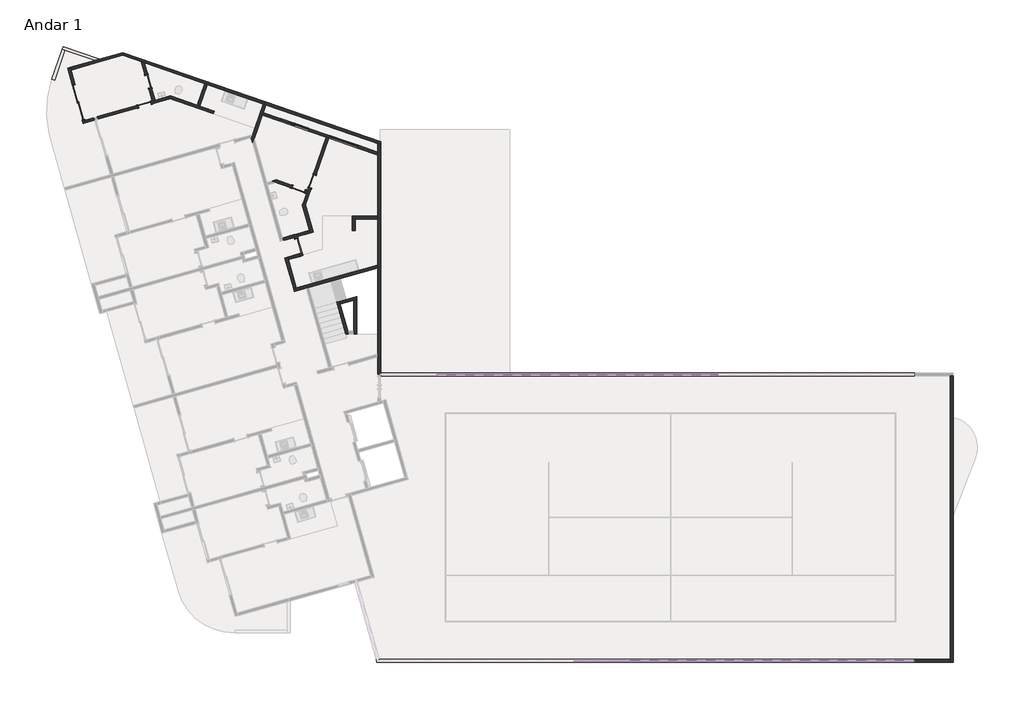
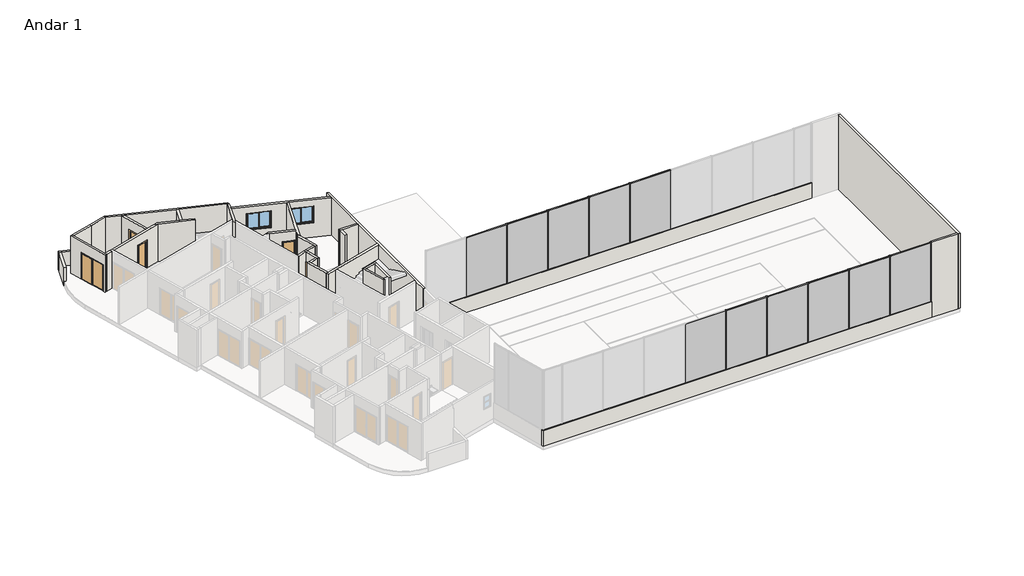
# One storey, part 3 of 4: 33 walls, 20 members, 11 plates, 6 doors, 2 windows.
"""IFC4 building model written with IfcOpenShell, lengths in millimetres."""

from ifc_helpers import new_model, si_unit, frame, origin, place, context, project, spatial, polyline, outline, extrude, faceted_brep, transform, mapped, element, save
from components import p2_80cm_9d4be4ef, p3_70cm_ef4d15e3, p3_70cm_0a698c7c, p4_correr_200cm_eaaa0877, montante_retangular_montante_circular_5ff1fdcf, montante_retangular_montante_circular_86a469dc, montante_retangular_montante_circular_5da571e1, painel_do_sistema_4e286993, jx_160cm_e9e36a0c

model = new_model("IFC4")

# Units and contexts
model_context = context("Model", 3, world=origin())
ifc_project = project(units=[si_unit("LENGTHUNIT", "METRE", prefix="MILLI")], contexts=[model_context])

# Site, building, storey
site = spatial("IfcSite", under=ifc_project)
building = spatial("IfcBuilding", under=site)
storey = spatial("IfcBuildingStorey", under=building, Name="Andar 1", Elevation=53650.0)

# Doors
placement = place(None, origin())
p2_80cm_shape = p2_80cm_9d4be4ef(model_context)
element("IfcDoor", 1, ObjectType="M_Folha única1 : P2 - 80CM", at=placement, inside=storey, context=model_context, shape_type="MappedRepresentation", body=[
    mapped(p2_80cm_shape, transform((-79349.4097406, 25479.1041247, 53650.0), x_axis=(-0.27176796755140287, 0.962362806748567, 0.0), y_axis=(-0.962362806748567, -0.27176796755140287, 0.0), z_axis=(0.0, 0.0, 1.0))),
])
p3_70cm_shape = p3_70cm_ef4d15e3(model_context)
element("IfcDoor", 2, ObjectType="M_Folha única1 : P3 - 70CM", at=placement, inside=storey, context=model_context, shape_type="MappedRepresentation", body=[
    mapped(p3_70cm_shape, transform((-87513.806232, 32980.5300491, 53650.0), x_axis=(0.9623628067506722, 0.2717679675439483, 0.0), y_axis=(-0.2717679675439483, 0.9623628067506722, 0.0), z_axis=(0.0, 0.0, 1.0))),
])
p3_70cm_2_shape = p3_70cm_0a698c7c(model_context)
element("IfcDoor", 3, ObjectType="M_Folha única1 : P3 - 70CM", at=placement, inside=storey, context=model_context, shape_type="MappedRepresentation", body=[
    mapped(p3_70cm_2_shape, transform((-87314.304722, 34205.8663896, 53650.0), x_axis=(-0.2717679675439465, 0.9623628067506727, 0.0), y_axis=(-0.9623628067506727, -0.2717679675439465, 0.0), z_axis=(0.0, 0.0, 1.0))),
])
element("IfcDoor", 4, ObjectType="M_Folha única1 : P3 - 70CM", at=placement, inside=storey, context=model_context, shape_type="MappedRepresentation", body=[
    mapped(p3_70cm_2_shape, transform((-79346.1223746, 28509.6973665, 53650.0), x_axis=(0.9449109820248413, -0.32732741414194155, 0.0), y_axis=(0.32732741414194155, 0.9449109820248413, 0.0), z_axis=(0.0, 0.0, 1.0))),
])
element("IfcDoor", 5, ObjectType="M_Folha única1 : P3 - 70CM", at=placement, inside=storey, context=model_context, shape_type="MappedRepresentation", body=[
    mapped(p3_70cm_2_shape, transform((-78626.5662556, 28921.8732895, 53650.0), x_axis=(-0.32732741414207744, -0.9449109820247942, 0.0), y_axis=(0.9449109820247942, -0.32732741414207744, 0.0), z_axis=(0.0, 0.0, 1.0))),
])
p4_correr_200cm_shape = p4_correr_200cm_eaaa0877(model_context)
element("IfcDoor", 6, ObjectType="Porta de correr dupla envidraçada sem revestimento : P4 - CORRER - 200CM", at=placement, inside=storey, context=model_context, shape_type="MappedRepresentation", body=[
    mapped(p4_correr_200cm_shape, transform((-91005.8131296, 33111.4415743, 53650.0), x_axis=(0.2717679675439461, -0.9623628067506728, 0.0), y_axis=(0.9623628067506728, 0.2717679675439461, 0.0), z_axis=(0.0, 0.0, 1.0))),
])

# Members
montante_retangular_montante_circular_shape = montante_retangular_montante_circular_5ff1fdcf(model_context)
element("IfcMember", 7, ObjectType="Montante retangular : Montante Circular", at=placement, inside=storey, context=model_context, shape_type="MappedRepresentation", body=[
    mapped(montante_retangular_montante_circular_shape, transform((-69057.8282186, 18677.5140353, 59450.0), x_axis=(0.0, 0.0, 1.0), y_axis=(0.0, -1.0, 0.0), z_axis=(1.0, 0.0, 0.0))),
])
element("IfcMember", 8, ObjectType="Montante retangular : Montante Circular", at=placement, inside=storey, context=model_context, shape_type="MappedRepresentation", body=[
    mapped(montante_retangular_montante_circular_shape, transform((-66057.8282186, 18677.5140353, 59450.0), x_axis=(0.0, 0.0, 1.0), y_axis=(0.0, -1.0, 0.0), z_axis=(1.0, 0.0, 0.0))),
])
element("IfcMember", 9, ObjectType="Montante retangular : Montante Circular", at=placement, inside=storey, context=model_context, shape_type="MappedRepresentation", body=[
    mapped(montante_retangular_montante_circular_shape, transform((-63057.8282186, 18677.5140353, 59450.0), x_axis=(0.0, 0.0, 1.0), y_axis=(0.0, -1.0, 0.0), z_axis=(1.0, 0.0, 0.0))),
])
element("IfcMember", 10, ObjectType="Montante retangular : Montante Circular", at=placement, inside=storey, context=model_context, shape_type="MappedRepresentation", body=[
    mapped(montante_retangular_montante_circular_shape, transform((-60057.8282186, 18677.5140353, 59450.0), x_axis=(0.0, 0.0, 1.0), y_axis=(0.0, -1.0, 0.0), z_axis=(1.0, 0.0, 0.0))),
])
element("IfcMember", 11, ObjectType="Montante retangular : Montante Circular", at=placement, inside=storey, context=model_context, shape_type="MappedRepresentation", body=[
    mapped(montante_retangular_montante_circular_shape, transform((-57057.8282186, 18677.5140353, 59450.0), x_axis=(0.0, 0.0, 1.0), y_axis=(0.0, -1.0, 0.0), z_axis=(1.0, 0.0, 0.0))),
])
element("IfcMember", 12, ObjectType="Montante retangular : Montante Circular", at=placement, inside=storey, context=model_context, shape_type="MappedRepresentation", body=[
    mapped(montante_retangular_montante_circular_shape, transform((-49731.6124052, 3486.0495751, 59450.0), x_axis=(0.0, 0.0, 1.0), y_axis=(0.0, 1.0, 0.0), z_axis=(-1.0, 0.0, 0.0))),
])
element("IfcMember", 13, ObjectType="Montante retangular : Montante Circular", at=placement, inside=storey, context=model_context, shape_type="MappedRepresentation", body=[
    mapped(montante_retangular_montante_circular_shape, transform((-52731.6124052, 3486.0495751, 59450.0), x_axis=(0.0, 0.0, 1.0), y_axis=(0.0, 1.0, 0.0), z_axis=(-1.0, 0.0, 0.0))),
])
element("IfcMember", 14, ObjectType="Montante retangular : Montante Circular", at=placement, inside=storey, context=model_context, shape_type="MappedRepresentation", body=[
    mapped(montante_retangular_montante_circular_shape, transform((-55731.6124052, 3486.0495751, 59450.0), x_axis=(0.0, 0.0, 1.0), y_axis=(0.0, 1.0, 0.0), z_axis=(-1.0, 0.0, 0.0))),
])
element("IfcMember", 15, ObjectType="Montante retangular : Montante Circular", at=placement, inside=storey, context=model_context, shape_type="MappedRepresentation", body=[
    mapped(montante_retangular_montante_circular_shape, transform((-58731.6124052, 3486.0495751, 59450.0), x_axis=(0.0, 0.0, 1.0), y_axis=(0.0, 1.0, 0.0), z_axis=(-1.0, 0.0, 0.0))),
])
element("IfcMember", 16, ObjectType="Montante retangular : Montante Circular", at=placement, inside=storey, context=model_context, shape_type="MappedRepresentation", body=[
    mapped(montante_retangular_montante_circular_shape, transform((-61731.6124052, 3486.0495751, 59450.0), x_axis=(0.0, 0.0, 1.0), y_axis=(0.0, 1.0, 0.0), z_axis=(-1.0, 0.0, 0.0))),
])
montante_retangular_montante_circular_2_shape = montante_retangular_montante_circular_86a469dc(model_context)
element("IfcMember", 17, ObjectType="Montante retangular : Montante Circular", at=placement, inside=storey, context=model_context, shape_type="MappedRepresentation", body=[
    mapped(montante_retangular_montante_circular_2_shape, transform((-69027.8282186, 18677.5140353, 54850.0), x_axis=(1.0, 0.0, 0.0), y_axis=(0.0, -1.0, 0.0), z_axis=(0.0, 0.0, -1.0))),
])
element("IfcMember", 18, ObjectType="Montante retangular : Montante Circular", at=placement, inside=storey, context=model_context, shape_type="MappedRepresentation", body=[
    mapped(montante_retangular_montante_circular_2_shape, transform((-66027.8282186, 18677.5140353, 54850.0), x_axis=(1.0, 0.0, 0.0), y_axis=(0.0, -1.0, 0.0), z_axis=(0.0, 0.0, -1.0))),
])
element("IfcMember", 19, ObjectType="Montante retangular : Montante Circular", at=placement, inside=storey, context=model_context, shape_type="MappedRepresentation", body=[
    mapped(montante_retangular_montante_circular_2_shape, transform((-63027.8282186, 18677.5140353, 54850.0), x_axis=(1.0, 0.0, 0.0), y_axis=(0.0, -1.0, 0.0), z_axis=(0.0, 0.0, -1.0))),
])
element("IfcMember", 20, ObjectType="Montante retangular : Montante Circular", at=placement, inside=storey, context=model_context, shape_type="MappedRepresentation", body=[
    mapped(montante_retangular_montante_circular_2_shape, transform((-60027.8282186, 18677.5140353, 54850.0), x_axis=(1.0, 0.0, 0.0), y_axis=(0.0, -1.0, 0.0), z_axis=(0.0, 0.0, -1.0))),
])
element("IfcMember", 21, ObjectType="Montante retangular : Montante Circular", at=placement, inside=storey, context=model_context, shape_type="MappedRepresentation", body=[
    mapped(montante_retangular_montante_circular_2_shape, transform((-49761.6124052, 3486.0495751, 54850.0), x_axis=(-1.0, 0.0, 0.0), y_axis=(0.0, 1.0, 0.0), z_axis=(0.0, 0.0, -1.0))),
])
element("IfcMember", 22, ObjectType="Montante retangular : Montante Circular", at=placement, inside=storey, context=model_context, shape_type="MappedRepresentation", body=[
    mapped(montante_retangular_montante_circular_2_shape, transform((-52761.6124052, 3486.0495751, 54850.0), x_axis=(-1.0, 0.0, 0.0), y_axis=(0.0, 1.0, 0.0), z_axis=(0.0, 0.0, -1.0))),
])
element("IfcMember", 23, ObjectType="Montante retangular : Montante Circular", at=placement, inside=storey, context=model_context, shape_type="MappedRepresentation", body=[
    mapped(montante_retangular_montante_circular_2_shape, transform((-55761.6124052, 3486.0495751, 54850.0), x_axis=(-1.0, 0.0, 0.0), y_axis=(0.0, 1.0, 0.0), z_axis=(0.0, 0.0, -1.0))),
])
element("IfcMember", 24, ObjectType="Montante retangular : Montante Circular", at=placement, inside=storey, context=model_context, shape_type="MappedRepresentation", body=[
    mapped(montante_retangular_montante_circular_2_shape, transform((-58761.6124052, 3486.0495751, 54850.0), x_axis=(-1.0, 0.0, 0.0), y_axis=(0.0, 1.0, 0.0), z_axis=(0.0, 0.0, -1.0))),
])
element("IfcMember", 25, ObjectType="Montante retangular : Montante Circular", at=placement, inside=storey, context=model_context, shape_type="MappedRepresentation", body=[
    mapped(montante_retangular_montante_circular_2_shape, transform((-61761.6124052, 3486.0495751, 54850.0), x_axis=(-1.0, 0.0, 0.0), y_axis=(0.0, 1.0, 0.0), z_axis=(0.0, 0.0, -1.0))),
])
montante_retangular_montante_circular_3_shape = montante_retangular_montante_circular_5da571e1(model_context)
element("IfcMember", 26, ObjectType="Montante retangular : Montante Circular", at=placement, inside=storey, context=model_context, shape_type="MappedRepresentation", body=[
    mapped(montante_retangular_montante_circular_3_shape, transform((-46731.6124049, 3486.0495751, 59450.0), x_axis=(1.0, 0.0, 0.0), y_axis=(0.0, 1.0, 0.0), z_axis=(0.0, 0.0, 1.0))),
])

# Plates
painel_do_sistema_shape = painel_do_sistema_4e286993(model_context)
element("IfcPlate", 27, ObjectType="Painel do sistema : Gradil Alambrado", at=placement, inside=storey, context=model_context, shape_type="MappedRepresentation", body=[
    mapped(painel_do_sistema_shape, transform((-70527.8282186, 18677.5140353, 54850.0), x_axis=(1.0, 0.0, 0.0), y_axis=(0.0, 1.0, 0.0), z_axis=(0.0, 0.0, 1.0))),
])
element("IfcPlate", 28, ObjectType="Painel do sistema : Gradil Alambrado", at=placement, inside=storey, context=model_context, shape_type="MappedRepresentation", body=[
    mapped(painel_do_sistema_shape, transform((-67527.8282186, 18677.5140353, 54850.0), x_axis=(1.0, 0.0, 0.0), y_axis=(0.0, 1.0, 0.0), z_axis=(0.0, 0.0, 1.0))),
])
element("IfcPlate", 29, ObjectType="Painel do sistema : Gradil Alambrado", at=placement, inside=storey, context=model_context, shape_type="MappedRepresentation", body=[
    mapped(painel_do_sistema_shape, transform((-64527.8282186, 18677.5140353, 54850.0), x_axis=(1.0, 0.0, 0.0), y_axis=(0.0, 1.0, 0.0), z_axis=(0.0, 0.0, 1.0))),
])
element("IfcPlate", 30, ObjectType="Painel do sistema : Gradil Alambrado", at=placement, inside=storey, context=model_context, shape_type="MappedRepresentation", body=[
    mapped(painel_do_sistema_shape, transform((-61527.8282186, 18677.5140353, 54850.0), x_axis=(1.0, 0.0, 0.0), y_axis=(0.0, 1.0, 0.0), z_axis=(0.0, 0.0, 1.0))),
])
element("IfcPlate", 31, ObjectType="Painel do sistema : Gradil Alambrado", at=placement, inside=storey, context=model_context, shape_type="MappedRepresentation", body=[
    mapped(painel_do_sistema_shape, transform((-58527.8282186, 18677.5140353, 54850.0), x_axis=(1.0, 0.0, 0.0), y_axis=(0.0, 1.0, 0.0), z_axis=(0.0, 0.0, 1.0))),
])
element("IfcPlate", 32, ObjectType="Painel do sistema : Gradil Alambrado", at=placement, inside=storey, context=model_context, shape_type="MappedRepresentation", body=[
    mapped(painel_do_sistema_shape, transform((-48261.612405, 3486.0495751, 54850.0), x_axis=(-1.0, 0.0, 0.0), y_axis=(0.0, -1.0, 0.0), z_axis=(0.0, 0.0, 1.0))),
])
element("IfcPlate", 33, ObjectType="Painel do sistema : Gradil Alambrado", at=placement, inside=storey, context=model_context, shape_type="MappedRepresentation", body=[
    mapped(painel_do_sistema_shape, transform((-51261.6124052, 3486.0495751, 54850.0), x_axis=(-1.0, 0.0, 0.0), y_axis=(0.0, -1.0, 0.0), z_axis=(0.0, 0.0, 1.0))),
])
element("IfcPlate", 34, ObjectType="Painel do sistema : Gradil Alambrado", at=placement, inside=storey, context=model_context, shape_type="MappedRepresentation", body=[
    mapped(painel_do_sistema_shape, transform((-54261.6124052, 3486.0495751, 54850.0), x_axis=(-1.0, 0.0, 0.0), y_axis=(0.0, -1.0, 0.0), z_axis=(0.0, 0.0, 1.0))),
])
element("IfcPlate", 35, ObjectType="Painel do sistema : Gradil Alambrado", at=placement, inside=storey, context=model_context, shape_type="MappedRepresentation", body=[
    mapped(painel_do_sistema_shape, transform((-57261.6124052, 3486.0495751, 54850.0), x_axis=(-1.0, 0.0, 0.0), y_axis=(0.0, -1.0, 0.0), z_axis=(0.0, 0.0, 1.0))),
])
element("IfcPlate", 36, ObjectType="Painel do sistema : Gradil Alambrado", at=placement, inside=storey, context=model_context, shape_type="MappedRepresentation", body=[
    mapped(painel_do_sistema_shape, transform((-60261.6124052, 3486.0495751, 54850.0), x_axis=(-1.0, 0.0, 0.0), y_axis=(0.0, -1.0, 0.0), z_axis=(0.0, 0.0, 1.0))),
])
element("IfcPlate", 37, ObjectType="Painel do sistema : Gradil Alambrado", at=placement, inside=storey, context=model_context, shape_type="MappedRepresentation", body=[
    mapped(painel_do_sistema_shape, transform((-63261.6124052, 3486.0495751, 54850.0), x_axis=(-1.0, 0.0, 0.0), y_axis=(0.0, -1.0, 0.0), z_axis=(0.0, 0.0, 1.0))),
])

# Walls
element("IfcWall", 38, ObjectType="Básica .15 - Externa", at=placement, inside=storey, context=model_context, shape_type="Brep", body=[
    faceted_brep([(-88662.6343714, 35591.588263, 53650.0), (-87688.240739, 35254.0477389, 53650.0), (-87515.4733556, 35194.1992432, 53650.0), (-84326.6881589, 34089.5694606, 53650.0), (-84184.9515116, 34040.4703485, 53650.0), (-81226.8582774, 33015.7547641, 53650.0), (-81156.3583355, 32991.3328194, 53650.0), (-81156.3583355, 32991.3328194, 54950.0), (-81085.1216301, 32966.655652, 54950.0), (-81085.1216301, 32966.655652, 56250.0), (-81156.3583355, 32991.3328194, 56250.0), (-81156.3583355, 32991.3328194, 56550.0), (-81226.8582774, 33015.7547641, 56550.0), (-84184.9515116, 34040.4703485, 56550.0), (-84326.6881589, 34089.5694606, 56550.0), (-87515.4733556, 35194.1992432, 56550.0), (-87688.240739, 35254.0477389, 56550.0), (-88662.6343714, 35591.588263, 56550.0), (-88658.0562773, 35748.7474739, 53650.0), (-88658.0562773, 35748.7474739, 56550.0), (-81107.2592234, 33133.0694667, 56550.0), (-81107.2592234, 33133.0694667, 56250.0), (-81036.022518, 33108.3922993, 56250.0), (-81036.022518, 33108.3922993, 54950.0), (-81107.2592234, 33133.0694667, 54950.0), (-81107.2592234, 33133.0694667, 53650.0)], [[[0, 1, 2, 3, 4, 5, 6, 7, 8, 9, 10, 11, 12, 13, 14, 15, 16, 17]], [[18, 19, 20, 21, 22, 23, 24, 25]], [[6, 5, 4, 3, 2, 1, 0, 18, 25]], [[17, 16, 15, 14, 13, 12, 11, 20, 19]], [[0, 17, 19, 18]], [[7, 6, 25, 24]], [[23, 8, 7, 24]], [[11, 10, 21, 20]], [[21, 10, 9, 22]], [[9, 8, 23, 22]]]),
])
element("IfcWall", 39, ObjectType="Básica .15 -  Interna", at=placement, inside=storey, context=model_context, shape_type="Brep", body=[
    faceted_brep([(-81789.2550074, 30934.0017027, 53650.0), (-81703.3880158, 31181.8778654, 53650.0), (-81272.8781344, 32424.6503839, 53650.0), (-81223.7790223, 32566.3870312, 53650.0), (-81085.1216301, 32966.655652, 53650.0), (-81085.1216301, 32966.655652, 54950.0), (-81085.1216301, 32966.655652, 56250.0), (-81085.1216301, 32966.655652, 56550.0), (-81223.7790223, 32566.3870312, 56550.0), (-81272.8781344, 32424.6503839, 56550.0), (-81703.3880158, 31181.8778654, 56550.0), (-81789.2550074, 30934.0017027, 56550.0), (-81860.5472267, 31186.4559595, 53650.0), (-81860.5472267, 31186.4559595, 56550.0), (-81845.4155775, 31230.1371819, 56550.0), (-81785.5670817, 31402.9045654, 56550.0), (-81226.8582774, 33015.7547641, 56550.0), (-81226.8582774, 33015.7547641, 53650.0), (-81785.5670817, 31402.9045654, 53650.0), (-81845.4155775, 31230.1371819, 53650.0), (-81156.3583355, 32991.3328194, 53650.0), (-81156.3583355, 32991.3328194, 56550.0)], [[[0, 1, 2, 3, 4, 5, 6, 7, 8, 9, 10, 11]], [[12, 13, 14, 15, 16, 17, 18, 19]], [[4, 3, 2, 1, 0, 12, 19, 18, 17, 20]], [[11, 10, 9, 8, 7, 21, 16, 15, 14, 13]], [[0, 11, 13, 12]], [[4, 20, 17, 16, 21, 7, 6, 5]]]),
])
element("IfcWall", 40, ObjectType="Básica .15 -  Interna", at=placement, inside=storey, context=model_context, shape_type="Brep", body=[
    faceted_brep([(-91449.9950574, 34960.3135045, 56550.0), (-91409.2298622, 34815.9590835, 56550.0), (-90661.8679515, 32169.4613651, 56550.0), (-90621.1027564, 32025.1069441, 56550.0), (-90621.1027564, 32025.1069441, 53650.0), (-90661.8679515, 32169.4613651, 53650.0), (-90661.8679515, 32169.4613651, 55750.0), (-91205.4038866, 34094.1869786, 55750.0), (-91205.4038866, 34094.1869786, 53650.0), (-91409.2298622, 34815.9590835, 53650.0), (-91449.9950574, 34960.3135045, 53650.0), (-90765.4571774, 31984.341749, 56550.0), (-91594.3494784, 34919.5483093, 56550.0), (-91594.3494784, 34919.5483093, 53650.0), (-91349.7583076, 34053.4217835, 53650.0), (-91349.7583076, 34053.4217835, 55750.0), (-90806.2223725, 32128.69617, 55750.0), (-90806.2223725, 32128.69617, 53650.0), (-90765.4571774, 31984.341749, 53650.0)], [[[0, 1, 2, 3, 4, 5, 6, 7, 8, 9, 10]], [[11, 12, 13, 14, 15, 16, 17, 18]], [[4, 18, 17, 5]], [[13, 10, 9, 8, 14]], [[3, 2, 1, 0, 12, 11]], [[4, 3, 11, 18]], [[16, 6, 5, 17]], [[6, 16, 15, 7]], [[7, 15, 14, 8]], [[0, 10, 13, 12]]]),
])
element("IfcWall", 41, ObjectType="Básica .15 - Externa", at=placement, inside=storey, context=model_context, shape_type="Brep", body=[
    faceted_brep([(-91871.4376954, 35923.0920443, 53350.0), (-91729.7010481, 35873.9929322, 53350.0), (-90151.0501028, 35327.1311202, 53350.0), (-90151.0501028, 35327.1311202, 54750.0), (-91729.7010481, 35873.9929322, 54750.0), (-91871.4376954, 35923.0920443, 54750.0), (-91822.3385833, 36064.8286916, 53350.0), (-91822.3385833, 36064.8286916, 54750.0), (-89898.595846, 35398.4233395, 54750.0), (-89898.595846, 35398.4233395, 53350.0)], [[[0, 1, 2, 3, 4, 5]], [[6, 7, 8, 9]], [[2, 1, 0, 6, 9]], [[5, 4, 3, 8, 7]], [[0, 5, 7, 6]], [[3, 2, 9, 8]]]),
])
element("IfcWall", 42, ObjectType="Básica .15 - Externa", at=placement, inside=storey, context=model_context, shape_type="SweptSolid", body=[
    extrude(outline(polyline([(-91729.7010481, 35873.9929322), (-92280.2794148, 34284.6132387), (-92422.0160621, 34333.7123509), (-91871.4376954, 35923.0920443), (-91729.7010481, 35873.9929322)])), frame((0.0, 0.0, 53350.0), z_axis=(0.0, 0.0, 1.0), x_axis=(1.0, 0.0, 0.0)), (0.0, 0.0, 1.0), 1400.0),
])
element("IfcWall", 43, ObjectType="Básica .15 -  Interna", at=placement, inside=storey, context=model_context, shape_type="Brep", body=[
    faceted_brep([(-79570.9048554, 23078.5590693, 53650.0), (-78948.2127609, 23254.4051886, 53650.0), (-78803.8582924, 23295.1703972, 53650.0), (-75147.8282189, 24327.6207947, 53650.0), (-75147.8282189, 24327.6207947, 56550.0), (-78803.8582924, 23295.1703972, 56550.0), (-78948.2127609, 23254.4051886, 56550.0), (-79570.9048554, 23078.5590693, 56550.0), (-79611.6700506, 23222.9134903, 53650.0), (-79611.6700506, 23222.9134903, 56550.0), (-79467.3156296, 23263.6786855, 56550.0), (-75147.8282189, 24483.4871675, 56550.0), (-75147.8282189, 24483.4871675, 53650.0), (-79467.3156296, 23263.6786855, 53650.0)], [[[0, 1, 2, 3, 4, 5, 6, 7]], [[8, 9, 10, 11, 12, 13]], [[3, 2, 1, 0, 8, 13, 12]], [[7, 6, 5, 4, 11, 10, 9]], [[0, 7, 9, 8]], [[4, 3, 12, 11]]]),
])
element("IfcWall", 44, ObjectType="Básica .15 - Externa", at=placement, inside=storey, context=model_context, shape_type="Brep", body=[
    faceted_brep([(-75147.8282189, 30909.9128092, 56550.0), (-75147.8282189, 30909.9128092, 53650.0), (-75147.8282189, 30461.6117638, 53650.0), (-75147.8282189, 30302.8666514, 53650.0), (-75147.8282189, 27060.8243598, 53650.0), (-75147.8282189, 26910.8243598, 53650.0), (-75147.8282189, 24483.4871675, 53650.0), (-75147.8282189, 24327.6207947, 53650.0), (-75147.8282189, 19757.3329862, 53650.0), (-75147.8282189, 19601.4666134, 53650.0), (-75147.8282189, 18602.5140353, 53650.0), (-75147.8282189, 18602.5140353, 54850.0), (-75147.8282189, 18677.5140353, 54850.0), (-75147.8282189, 18677.5140353, 56550.0), (-75147.8282189, 19601.4666134, 56550.0), (-75147.8282189, 19757.3329862, 56550.0), (-75147.8282189, 24327.6207947, 56550.0), (-75147.8282189, 24483.4871675, 56550.0), (-75147.8282189, 26910.8243598, 56550.0), (-75147.8282189, 27060.8243598, 56550.0), (-75147.8282189, 30302.8666514, 56550.0), (-75147.8282189, 30461.6117638, 56550.0), (-74997.8282189, 30857.9511821, 53650.0), (-74997.8282189, 30857.9511821, 54950.0), (-74997.8282189, 30857.9511821, 56250.0), (-74997.8282189, 30857.9511821, 56550.0), (-74997.8282189, 18677.5140353, 56550.0), (-74997.8282189, 18677.5140353, 54850.0), (-74997.8282189, 18602.5140353, 54850.0), (-74997.8282189, 18602.5140353, 53650.0), (-74997.8282189, 18752.5140353, 53650.0)], [[[0, 1, 2, 3, 4, 5, 6, 7, 8, 9, 10, 11, 12, 13, 14, 15, 16, 17, 18, 19, 20, 21]], [[22, 23, 24, 25, 26, 27, 28, 29, 30]], [[10, 9, 8, 7, 6, 5, 4, 3, 2, 1, 22, 30, 29]], [[0, 21, 20, 19, 18, 17, 16, 15, 14, 13, 26, 25]], [[0, 25, 24, 23, 22, 1]], [[13, 12, 27, 26]], [[27, 12, 11, 28]], [[11, 10, 29, 28]]]),
])
element("IfcWall", 45, ObjectType="Básica .15 -  Interna", at=placement, inside=storey, context=model_context, shape_type="Brep", body=[
    faceted_brep([(-80073.6755954, 24858.9302618, 53650.0), (-79611.6700506, 23222.9134903, 53650.0), (-79611.6700506, 23222.9134903, 56550.0), (-80073.6755954, 24858.9302618, 56550.0), (-79929.3211744, 24899.695457, 53650.0), (-79929.3211744, 24899.695457, 56550.0), (-79888.5559793, 24755.3410359, 56550.0), (-79467.3156296, 23263.6786855, 56550.0), (-79467.3156296, 23263.6786855, 53650.0), (-79888.5559793, 24755.3410359, 53650.0)], [[[0, 1, 2, 3]], [[4, 5, 6, 7, 8, 9]], [[1, 0, 4, 9, 8]], [[3, 2, 7, 6, 5]], [[0, 3, 5, 4]], [[2, 1, 8, 7]]]),
])
element("IfcWall", 46, ObjectType="Básica .15 -  Interna", at=placement, inside=storey, context=model_context, shape_type="Brep", body=[
    faceted_brep([(-79888.5559793, 24755.3410359, 53650.0), (-79272.1145689, 24929.4219834, 53650.0), (-79272.1145689, 24929.4219834, 56550.0), (-79888.5559793, 24755.3410359, 56550.0), (-79929.3211744, 24899.695457, 53650.0), (-79929.3211744, 24899.695457, 56550.0), (-79312.8797641, 25073.7764044, 56550.0), (-79312.8797641, 25073.7764044, 55750.0), (-79312.8797641, 25073.7764044, 53650.0)], [[[0, 1, 2, 3]], [[4, 5, 6, 7, 8]], [[1, 0, 4, 8]], [[3, 2, 6, 5]], [[0, 3, 5, 4]], [[2, 1, 8, 7, 6]]]),
])
element("IfcWall", 47, ObjectType="Básica .15 -  Interna", at=placement, inside=storey, context=model_context, shape_type="Brep", body=[
    faceted_brep([(-79598.23613, 26084.2573515, 53650.0), (-79557.4709349, 25939.9029305, 53650.0), (-79530.2941381, 25843.6666498, 53650.0), (-79530.2941381, 25843.6666498, 55750.0), (-79312.8797641, 25073.7764044, 55750.0), (-79312.8797641, 25073.7764044, 53650.0), (-79272.1145689, 24929.4219834, 53650.0), (-79272.1145689, 24929.4219834, 56550.0), (-79312.8797641, 25073.7764044, 56550.0), (-79557.4709349, 25939.9029305, 56550.0), (-79598.23613, 26084.2573515, 56550.0), (-79385.9397171, 25884.4318449, 55750.0), (-79385.9397171, 25884.4318449, 53650.0), (-79413.1165138, 25980.6681256, 53650.0), (-79453.881709, 26125.0225466, 53650.0), (-79453.881709, 26125.0225466, 56550.0), (-79413.1165138, 25980.6681256, 56550.0), (-79127.7601479, 24970.1871785, 56550.0), (-79127.7601479, 24970.1871785, 53650.0), (-79168.5253431, 25114.5415995, 53650.0), (-79168.5253431, 25114.5415995, 55750.0)], [[[0, 1, 2, 3, 4, 5, 6, 7, 8, 9, 10]], [[11, 12, 13, 14, 15, 16, 17, 18, 19, 20]], [[19, 18, 6, 5]], [[14, 13, 12, 2, 1, 0]], [[10, 9, 8, 7, 17, 16, 15]], [[7, 6, 18, 17]], [[0, 10, 15, 14]], [[3, 2, 12, 11]], [[4, 3, 11, 20]], [[5, 4, 20, 19]]]),
])
element("IfcWall", 48, ObjectType="Básica .15 - Externa", at=placement, inside=storey, context=model_context, shape_type="SweptSolid", body=[
    extrude(outline(polyline([(-89921.2674906, 35392.0209445), (-88658.0562773, 35748.7474739), (-88662.6343714, 35591.588263), (-89880.5022955, 35247.6665235), (-89921.2674906, 35392.0209445)])), frame((0.0, 0.0, 53650.0), z_axis=(0.0, 0.0, 1.0), x_axis=(1.0, 0.0, 0.0)), (0.0, 0.0, 1.0), 2900.0),
])
element("IfcWall", 49, ObjectType="Básica .15 -  Interna", at=placement, inside=storey, context=model_context, shape_type="Brep", body=[
    faceted_brep([(-90184.5077758, 32304.2662473, 53650.0), (-90661.8679515, 32169.4613651, 53650.0), (-90661.8679515, 32169.4613651, 55750.0), (-90661.8679515, 32169.4613651, 56550.0), (-90184.5077758, 32304.2662473, 56550.0), (-90143.7425806, 32159.9118263, 53650.0), (-90143.7425806, 32159.9118263, 55750.0), (-90143.7425806, 32159.9118263, 56550.0), (-90621.1027564, 32025.1069441, 56550.0), (-90621.1027564, 32025.1069441, 53650.0)], [[[0, 1, 2, 3, 4]], [[5, 6, 7, 8, 9]], [[1, 0, 5, 9]], [[4, 3, 8, 7]], [[0, 4, 7, 6, 5]], [[3, 2, 1, 9, 8]]]),
])
element("IfcWall", 50, ObjectType="Básica .15 -  Interna", at=placement, inside=storey, context=model_context, shape_type="SweptSolid", body=[
    extrude(outline(polyline([(-79557.4709349, 25939.9029305), (-80173.9123452, 25765.821983), (-80214.6775403, 25910.176404), (-79598.23613, 26084.2573515), (-79557.4709349, 25939.9029305)])), frame((0.0, 0.0, 53650.0), z_axis=(0.0, 0.0, 1.0), x_axis=(1.0, 0.0, 0.0)), (0.0, 0.0, 1.0), 2900.0),
])
element("IfcWall", 51, ObjectType="Básica .15 -  Interna", at=placement, inside=storey, context=model_context, shape_type="Brep", body=[
    faceted_brep([(-81272.8781344, 32424.6503839, 53650.0), (-77897.5766162, 31255.4093243, 53650.0), (-77755.8399689, 31206.3102121, 53650.0), (-75147.8282189, 30302.8666514, 53650.0), (-75147.8282189, 30302.8666514, 56550.0), (-77755.8399689, 31206.3102121, 56550.0), (-77897.5766162, 31255.4093243, 56550.0), (-81272.8781344, 32424.6503839, 56550.0), (-78829.2985897, 31578.1679228, 54750.0), (-80341.1561609, 32101.8917854, 54750.0), (-80341.1561609, 32101.8917854, 56050.0), (-78829.2985897, 31578.1679228, 56050.0), (-76243.9823976, 30682.5863495, 54750.0), (-77755.8399689, 31206.3102121, 54750.0), (-77755.8399689, 31206.3102121, 56050.0), (-76243.9823976, 30682.5863495, 56050.0), (-81223.7790223, 32566.3870312, 53650.0), (-81223.7790223, 32566.3870312, 56550.0), (-75147.8282189, 30461.6117638, 56550.0), (-75147.8282189, 30461.6117638, 53650.0), (-78780.1994776, 31719.9045701, 54750.0), (-78780.1994776, 31719.9045701, 56050.0), (-80292.0570488, 32243.6284327, 56050.0), (-80292.0570488, 32243.6284327, 54750.0), (-76194.8832855, 30824.3229968, 54750.0), (-76194.8832855, 30824.3229968, 56050.0), (-77706.7408568, 31348.0468595, 56050.0), (-77706.7408568, 31348.0468595, 54750.0)], [[[0, 1, 2, 3, 4, 5, 6, 7], [8, 9, 10, 11], [12, 13, 14, 15]], [[16, 17, 18, 19], [20, 21, 22, 23], [24, 25, 26, 27]], [[3, 2, 1, 0, 16, 19]], [[7, 6, 5, 4, 18, 17]], [[0, 7, 17, 16]], [[21, 20, 8, 11]], [[22, 21, 11, 10]], [[23, 22, 10, 9]], [[20, 23, 9, 8]], [[25, 24, 12, 15]], [[26, 25, 15, 14]], [[27, 26, 14, 13]], [[24, 27, 13, 12]], [[4, 3, 19, 18]]]),
])
element("IfcWall", 52, ObjectType="Básica .15 - Externa", at=placement, inside=storey, context=model_context, shape_type="Brep", body=[
    faceted_brep([(-81156.3583355, 32991.3328194, 54950.0), (-81156.3583355, 32991.3328194, 53650.0), (-81156.3583355, 32991.3328194, 53350.0), (-81085.1216301, 32966.655652, 53350.0), (-74997.8282189, 30857.9511821, 53350.0), (-74997.8282189, 30857.9511821, 53650.0), (-74997.8282189, 30857.9511821, 54950.0), (-81085.1216301, 32966.655652, 54950.0), (-81107.2592234, 33133.0694667, 53350.0), (-81107.2592234, 33133.0694667, 53650.0), (-81107.2592234, 33133.0694667, 54950.0), (-81036.022518, 33108.3922993, 54950.0), (-74997.8282189, 31016.6962944, 54950.0), (-74997.8282189, 31016.6962944, 53350.0), (-81036.022518, 33108.3922993, 53350.0)], [[[0, 1, 2, 3, 4, 5, 6, 7]], [[8, 9, 10, 11, 12, 13, 14]], [[4, 3, 2, 8, 14, 13]], [[0, 7, 6, 12, 11, 10]], [[0, 10, 9, 8, 2, 1]], [[6, 5, 4, 13, 12]]]),
])
element("IfcWall", 53, ObjectType="Básica .15 -  Interna", at=placement, inside=storey, context=model_context, shape_type="SweptSolid", body=[
    extrude(outline(polyline([(-91449.9950574, 34960.3135045), (-89921.2674906, 35392.0209445), (-89880.5022955, 35247.6665235), (-91409.2298622, 34815.9590835), (-91449.9950574, 34960.3135045)])), frame((0.0, 0.0, 53650.0), z_axis=(0.0, 0.0, 1.0), x_axis=(1.0, 0.0, 0.0)), (0.0, 0.0, 1.0), 2900.0),
])
element("IfcWall", 54, ObjectType="Básica .15 -  Interna", at=placement, inside=storey, context=model_context, shape_type="Brep", body=[
    faceted_brep([(-83821.815623, 32644.7152387, 53650.0), (-84577.7444086, 32906.57717, 53650.0), (-84719.4810559, 32955.6762822, 53650.0), (-86137.8721095, 33447.0223292, 53650.0), (-86137.8721095, 33447.0223292, 56550.0), (-84719.4810559, 32955.6762822, 56550.0), (-84577.7444086, 32906.57717, 56550.0), (-83821.815623, 32644.7152387, 56550.0), (-83870.9147351, 32502.9785914, 53650.0), (-83870.9147351, 32502.9785914, 56550.0), (-86142.4502035, 33289.8631183, 56550.0), (-86390.3263662, 33375.7301099, 56550.0), (-86390.3263662, 33375.7301099, 53650.0), (-86142.4502035, 33289.8631183, 53650.0)], [[[0, 1, 2, 3, 4, 5, 6, 7]], [[8, 9, 10, 11, 12, 13]], [[3, 2, 1, 0, 8, 13, 12]], [[7, 6, 5, 4, 11, 10, 9]], [[0, 7, 9, 8]], [[4, 3, 12, 11]]]),
])
element("IfcWall", 55, ObjectType="Básica .15 -  Interna", at=placement, inside=storey, context=model_context, shape_type="Brep", body=[
    faceted_brep([(-86390.3263662, 33375.7301099, 53650.0), (-86956.7711455, 33215.7680402, 53650.0), (-87101.1255666, 33175.002845, 53650.0), (-87197.3618472, 33147.8260483, 53650.0), (-87197.3618472, 33147.8260483, 55750.0), (-87871.015812, 32957.588471, 55750.0), (-87871.015812, 32957.588471, 53650.0), (-90040.1533547, 32345.0314424, 53650.0), (-90040.1533547, 32345.0314424, 56550.0), (-87101.1255666, 33175.002845, 56550.0), (-86956.7711455, 33215.7680402, 56550.0), (-86390.3263662, 33375.7301099, 56550.0), (-87156.5966521, 33003.4716273, 55750.0), (-87156.5966521, 33003.4716273, 53650.0), (-86142.4502035, 33289.8631183, 53650.0), (-86142.4502035, 33289.8631183, 56550.0), (-89999.3881596, 32200.6770214, 56550.0), (-89999.3881596, 32200.6770214, 55750.0), (-89999.3881596, 32200.6770214, 53650.0), (-87830.2506168, 32813.23405, 53650.0), (-87830.2506168, 32813.23405, 55750.0)], [[[0, 1, 2, 3, 4, 5, 6, 7, 8, 9, 10, 11]], [[12, 13, 14, 15, 16, 17, 18, 19, 20]], [[19, 18, 7, 6]], [[14, 13, 3, 2, 1, 0]], [[11, 10, 9, 8, 16, 15]], [[4, 3, 13, 12]], [[5, 4, 12, 20]], [[6, 5, 20, 19]], [[0, 11, 15, 14]], [[8, 7, 18, 17, 16]]]),
])
element("IfcWall", 56, ObjectType="Básica .15 -  Interna", at=placement, inside=storey, context=model_context, shape_type="SweptSolid", body=[
    extrude(outline(polyline([(-84184.9515116, 34040.4703485), (-84577.7444086, 32906.57717), (-84719.4810559, 32955.6762822), (-84326.6881589, 34089.5694606), (-84184.9515116, 34040.4703485)])), frame((0.0, 0.0, 53650.0), z_axis=(0.0, 0.0, 1.0), x_axis=(1.0, 0.0, 0.0)), (0.0, 0.0, 1.0), 2900.0),
])
element("IfcWall", 57, ObjectType="Básica .15 -  Interna", at=placement, inside=storey, context=model_context, shape_type="Brep", body=[
    faceted_brep([(-87337.2463001, 34563.0759696, 55750.0), (-87337.2463001, 34563.0759696, 53650.0), (-87515.4733556, 35194.1992432, 53650.0), (-87515.4733556, 35194.1992432, 56550.0), (-86956.7711455, 33215.7680402, 56550.0), (-86956.7711455, 33215.7680402, 53650.0), (-87147.0087228, 33889.4220048, 53650.0), (-87147.0087228, 33889.4220048, 55750.0), (-87688.240739, 35254.0477389, 53650.0), (-87481.6007211, 34522.3107744, 53650.0), (-87481.6007211, 34522.3107744, 55750.0), (-87291.3631438, 33848.6568097, 55750.0), (-87291.3631438, 33848.6568097, 53650.0), (-87101.1255666, 33175.002845, 53650.0), (-87101.1255666, 33175.002845, 56550.0), (-87688.240739, 35254.0477389, 56550.0)], [[[0, 1, 2, 3, 4, 5, 6, 7]], [[8, 9, 10, 11, 12, 13, 14, 15]], [[6, 5, 13, 12]], [[2, 1, 9, 8]], [[4, 3, 15, 14]], [[10, 9, 1, 0]], [[11, 10, 0, 7]], [[12, 11, 7, 6]], [[5, 4, 14, 13]], [[3, 2, 8, 15]]]),
])
element("IfcWall", 58, ObjectType="Básica .15 -  Interna", at=placement, inside=storey, context=model_context, shape_type="Brep", body=[
    faceted_brep([(-76493.6479314, 26910.8243598, 53650.0), (-76343.6479314, 26910.8243598, 53650.0), (-75147.8282189, 26910.8243598, 53650.0), (-75147.8282189, 26910.8243598, 56550.0), (-76343.6479314, 26910.8243598, 56550.0), (-76493.6479314, 26910.8243598, 56550.0), (-76493.6479314, 27060.8243598, 53650.0), (-76493.6479314, 27060.8243598, 56550.0), (-75147.8282189, 27060.8243598, 56550.0), (-75147.8282189, 27060.8243598, 53650.0)], [[[0, 1, 2, 3, 4, 5]], [[6, 7, 8, 9]], [[2, 1, 0, 6, 9]], [[5, 4, 3, 8, 7]], [[0, 5, 7, 6]], [[3, 2, 9, 8]]]),
])
element("IfcWall", 59, ObjectType="Básica .15 -  Interna", at=placement, inside=storey, context=model_context, shape_type="SweptSolid", body=[
    extrude(outline(polyline([(-76343.6479314, 26910.8243598), (-76343.6479314, 26310.8243598), (-76493.6479314, 26310.8243598), (-76493.6479314, 26910.8243598), (-76343.6479314, 26910.8243598)])), frame((0.0, 0.0, 53650.0), z_axis=(0.0, 0.0, 1.0), x_axis=(1.0, 0.0, 0.0)), (0.0, 0.0, 1.0), 2900.0),
])
element("IfcWall", 60, ObjectType="Básica .15 -  Interna", at=placement, inside=storey, context=model_context, shape_type="Brep", body=[
    faceted_brep([(-78877.464657, 28426.7218055, 53650.0), (-78990.8539749, 28466.0010952, 53650.0), (-78990.8539749, 28466.0010952, 55750.0), (-79652.2916623, 28695.1302851, 55750.0), (-79652.2916623, 28695.1302851, 53650.0), (-80525.6718652, 28997.6786614, 53650.0), (-80525.6718652, 28997.6786614, 56550.0), (-78877.464657, 28426.7218055, 56550.0), (-79039.953087, 28324.2644479, 55750.0), (-79039.953087, 28324.2644479, 53650.0), (-78926.5637691, 28284.9851582, 53650.0), (-78926.5637691, 28284.9851582, 56550.0), (-80530.2499593, 28840.5194505, 56550.0), (-80778.126122, 28926.3864421, 56550.0), (-80778.126122, 28926.3864421, 53650.0), (-80530.2499593, 28840.5194505, 53650.0), (-79701.3907744, 28553.3936378, 53650.0), (-79701.3907744, 28553.3936378, 55750.0)], [[[0, 1, 2, 3, 4, 5, 6, 7]], [[8, 9, 10, 11, 12, 13, 14, 15, 16, 17]], [[10, 9, 1, 0]], [[16, 15, 14, 5, 4]], [[7, 6, 13, 12, 11]], [[2, 1, 9, 8]], [[3, 2, 8, 17]], [[4, 3, 17, 16]], [[6, 5, 14, 13]], [[0, 7, 11, 10]]]),
])
element("IfcWall", 61, ObjectType="Básica .15 -  Interna", at=placement, inside=storey, context=model_context, shape_type="Brep", body=[
    faceted_brep([(-79146.9727346, 27648.7205404, 53650.0), (-78771.1333302, 26317.8283554, 53650.0), (-78730.3681351, 26173.4739343, 53650.0), (-78730.3681351, 26173.4739343, 56550.0), (-78771.1333302, 26317.8283554, 56550.0), (-79146.9727346, 27648.7205404, 56550.0), (-79061.105743, 27896.5967032, 53650.0), (-79061.105743, 27896.5967032, 56550.0), (-78989.8135237, 27644.1424464, 56550.0), (-78586.013714, 26214.2391295, 56550.0), (-78586.013714, 26214.2391295, 53650.0), (-78989.8135237, 27644.1424464, 53650.0)], [[[0, 1, 2, 3, 4, 5]], [[6, 7, 8, 9, 10, 11]], [[2, 1, 0, 6, 11, 10]], [[5, 4, 3, 9, 8, 7]], [[0, 5, 7, 6]], [[3, 2, 10, 9]]]),
])
element("IfcWall", 62, ObjectType="Básica .15 -  Interna", at=placement, inside=storey, context=model_context, shape_type="Brep", body=[
    faceted_brep([(-78811.9991742, 28615.7040019, 55750.0), (-78811.9991742, 28615.7040019, 53650.0), (-78877.464657, 28426.7218055, 53650.0), (-78926.5637691, 28284.9851582, 53650.0), (-79061.105743, 27896.5967032, 53650.0), (-79061.105743, 27896.5967032, 56550.0), (-78926.5637691, 28284.9851582, 56550.0), (-78877.464657, 28426.7218055, 56550.0), (-77897.5766162, 31255.4093243, 56550.0), (-77897.5766162, 31255.4093243, 53650.0), (-78582.8699843, 29277.1416893, 53650.0), (-78582.8699843, 29277.1416893, 55750.0), (-78989.8135237, 27644.1424464, 53650.0), (-78670.2625269, 28566.6048898, 53650.0), (-78670.2625269, 28566.6048898, 55750.0), (-78441.133337, 29228.0425772, 55750.0), (-78441.133337, 29228.0425772, 53650.0), (-77755.8399689, 31206.3102121, 53650.0), (-77755.8399689, 31206.3102121, 54750.0), (-77755.8399689, 31206.3102121, 56050.0), (-77755.8399689, 31206.3102121, 56550.0), (-78989.8135237, 27644.1424464, 56550.0)], [[[0, 1, 2, 3, 4, 5, 6, 7, 8, 9, 10, 11]], [[12, 13, 14, 15, 16, 17, 18, 19, 20, 21]], [[10, 9, 17, 16]], [[4, 3, 2, 1, 13, 12]], [[8, 7, 6, 5, 21, 20]], [[14, 13, 1, 0]], [[15, 14, 0, 11]], [[16, 15, 11, 10]], [[5, 4, 12, 21]], [[9, 8, 20, 19, 18, 17]]]),
])
element("IfcWall", 63, ObjectType="Básica .15 -  Interna", at=placement, inside=storey, context=model_context, shape_type="SweptSolid", body=[
    extrude(outline(polyline([(-78730.3681351, 26173.4739343), (-79413.1165138, 25980.6681256), (-79453.881709, 26125.0225466), (-78771.1333302, 26317.8283554), (-78730.3681351, 26173.4739343)])), frame((0.0, 0.0, 53650.0), z_axis=(0.0, 0.0, 1.0), x_axis=(1.0, 0.0, 0.0)), (0.0, 0.0, 1.0), 2900.0),
])
element("IfcWall", 64, ObjectType="Básica .15 -  Interna", at=placement, inside=storey, context=model_context, shape_type="Brep", body=[
    faceted_brep([(-76703.5854218, 20819.1154254, 53650.0), (-76745.9449092, 20969.1154254, 53650.0), (-77152.5348621, 22408.8989724, 53650.0), (-77193.3000572, 22553.2533934, 53650.0), (-77193.3000572, 22553.2533934, 56550.0), (-77152.5348621, 22408.8989724, 56550.0), (-76745.9449092, 20969.1154254, 56550.0), (-76703.5854218, 20819.1154254, 56550.0), (-76859.4517946, 20819.1154254, 53650.0), (-76859.4517946, 20819.1154254, 56550.0), (-77337.6544782, 22512.4881983, 56550.0), (-77337.6544782, 22512.4881983, 53650.0)], [[[0, 1, 2, 3, 4, 5, 6, 7]], [[8, 9, 10, 11]], [[3, 2, 1, 0, 8, 11]], [[7, 6, 5, 4, 10, 9]], [[4, 3, 11, 10]], [[0, 7, 9, 8]]]),
])
element("IfcWall", 65, ObjectType="Básica .15 -  Interna", at=placement, inside=storey, context=model_context, shape_type="Brep", body=[
    faceted_brep([(-77152.5348621, 22408.8989724, 53650.0), (-76425.2862396, 22614.2714979, 53650.0), (-76275.2862396, 22656.6309852, 53650.0), (-76275.2862396, 22656.6309852, 56550.0), (-76425.2862396, 22614.2714979, 56550.0), (-77152.5348621, 22408.8989724, 56550.0), (-77193.3000572, 22553.2533934, 53650.0), (-77193.3000572, 22553.2533934, 56550.0), (-76275.2862396, 22812.497358, 56550.0), (-76275.2862396, 22812.497358, 53650.0)], [[[0, 1, 2, 3, 4, 5]], [[6, 7, 8, 9]], [[2, 1, 0, 6, 9]], [[5, 4, 3, 8, 7]], [[0, 5, 7, 6]], [[3, 2, 9, 8]]]),
])
element("IfcWall", 66, ObjectType="Básica .15 -  Interna", at=placement, inside=storey, context=model_context, shape_type="Brep", body=[
    faceted_brep([(-76425.2862396, 22614.2714979, 53650.0), (-76425.2862396, 20969.1154254, 53650.0), (-76425.2862396, 20819.1154254, 53650.0), (-76425.2862396, 20819.1154254, 56550.0), (-76425.2862396, 20969.1154254, 56550.0), (-76425.2862396, 22614.2714979, 56550.0), (-76275.2862396, 22656.6309852, 53650.0), (-76275.2862396, 22656.6309852, 56550.0), (-76275.2862396, 20819.1154254, 56550.0), (-76275.2862396, 20819.1154254, 53650.0)], [[[0, 1, 2, 3, 4, 5]], [[6, 7, 8, 9]], [[2, 1, 0, 6, 9]], [[5, 4, 3, 8, 7]], [[0, 5, 7, 6]], [[3, 2, 9, 8]]]),
])
element("IfcWall", 67, ObjectType="Básica .15 - Externa", at=placement, inside=storey, context=model_context, shape_type="Brep", body=[
    faceted_brep([(-74997.8282189, 18602.5140353, 53650.0), (-46729.2084298, 18602.5140353, 53650.0), (-46729.2084298, 18602.5140353, 54850.0), (-74997.8282189, 18602.5140353, 54850.0), (-74997.8282189, 18752.5140353, 53650.0), (-74997.8282189, 18752.5140353, 54850.0), (-46729.2084298, 18752.5140353, 54850.0), (-46729.2084298, 18752.5140353, 53650.0), (-74997.8282189, 18677.5140353, 54850.0)], [[[0, 1, 2, 3]], [[4, 5, 6, 7]], [[1, 0, 4, 7]], [[2, 1, 7, 6]], [[3, 2, 6, 5, 8]], [[0, 3, 8, 5, 4]]]),
])
element("IfcWall", 68, ObjectType="Básica .15 - Externa", at=placement, inside=storey, context=model_context, shape_type="Brep", body=[
    faceted_brep([(-46731.6124049, 3561.0495751, 53650.0), (-75082.1544481, 3561.0495751, 53650.0), (-75238.0208209, 3561.0495751, 53650.0), (-75238.0208209, 3561.0495751, 54850.0), (-75082.1544481, 3561.0495751, 54850.0), (-46731.6124049, 3561.0495751, 54850.0), (-46731.6124049, 3411.0495751, 53650.0), (-46731.6124049, 3411.0495751, 54850.0), (-75195.6613336, 3411.0495751, 54850.0), (-75195.6613336, 3411.0495751, 53650.0)], [[[0, 1, 2, 3, 4, 5]], [[6, 7, 8, 9]], [[2, 1, 0, 6, 9]], [[5, 4, 3, 8, 7]], [[0, 5, 7, 6]], [[3, 2, 9, 8]]]),
])
element("IfcWall", 69, ObjectType="Básica .15 - Externa", at=placement, inside=storey, context=model_context, shape_type="Brep", body=[
    faceted_brep([(-44805.8696428, 18602.5140353, 53650.0), (-44805.8696428, 3561.0495751, 53650.0), (-44805.8696428, 3411.0495751, 53650.0), (-44805.8696428, 3411.0495751, 59450.0), (-44805.8696428, 3561.0495751, 59450.0), (-44805.8696428, 18602.5140353, 59450.0), (-44655.8696428, 18602.5140353, 53650.0), (-44655.8696428, 18602.5140353, 59450.0), (-44655.8696428, 3411.0495751, 59450.0), (-44655.8696428, 3411.0495751, 53650.0)], [[[0, 1, 2, 3, 4, 5]], [[6, 7, 8, 9]], [[2, 1, 0, 6, 9]], [[5, 4, 3, 8, 7]], [[0, 5, 7, 6]], [[3, 2, 9, 8]]]),
])
element("IfcWall", 70, ObjectType="Básica .15 - Externa", at=placement, inside=storey, context=model_context, shape_type="Brep", body=[
    faceted_brep([(-44805.8696428, 3561.0495751, 53650.0), (-46731.6124049, 3561.0495751, 53650.0), (-46731.6124049, 3561.0495751, 54850.0), (-46731.6124049, 3561.0495751, 59450.0), (-44805.8696428, 3561.0495751, 59450.0), (-44805.8696428, 3411.0495751, 53650.0), (-44805.8696428, 3411.0495751, 59450.0), (-46731.6124049, 3411.0495751, 59450.0), (-46731.6124049, 3411.0495751, 54850.0), (-46731.6124049, 3411.0495751, 53650.0)], [[[0, 1, 2, 3, 4]], [[5, 6, 7, 8, 9]], [[1, 0, 5, 9]], [[3, 2, 1, 9, 8, 7]], [[4, 3, 7, 6]], [[0, 4, 6, 5]]]),
])

# Windows
jx_160cm_shape = jx_160cm_e9e36a0c(model_context)
element("IfcWindow", 71, ObjectType="Janela de correr - 2 Painéis : JX - 160CM", at=placement, inside=storey, context=model_context, shape_type="MappedRepresentation", body=[
    mapped(jx_160cm_shape, transform((-79560.6778192, 31910.8981777, 54100.0), x_axis=(-0.9449109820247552, 0.3273274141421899, 0.0), y_axis=(-0.3273274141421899, -0.9449109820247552, 0.0), z_axis=(0.0, 0.0, 1.0))),
])
element("IfcWindow", 72, ObjectType="Janela de correr - 2 Painéis : JX - 160CM", at=placement, inside=storey, context=model_context, shape_type="MappedRepresentation", body=[
    mapped(jx_160cm_shape, transform((-76975.3616272, 31015.3166045, 54100.0), x_axis=(-0.9449109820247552, 0.3273274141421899, 0.0), y_axis=(-0.3273274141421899, -0.9449109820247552, 0.0), z_axis=(0.0, 0.0, 1.0))),
])

save(model, "model.ifc")
